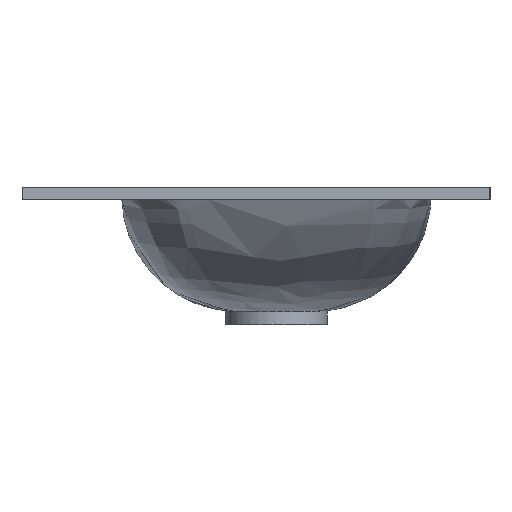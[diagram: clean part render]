
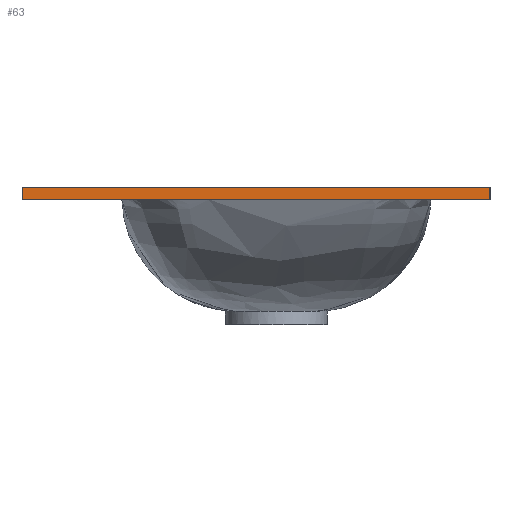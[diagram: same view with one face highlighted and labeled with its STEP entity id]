
A CAD part, left-side view. The second image highlights one B-rep face of the part: STEP entity #63.
In plain terms, the highlighted planar face has unit normal (-1, 0, 0).
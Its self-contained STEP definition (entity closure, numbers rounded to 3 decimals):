
#63=ADVANCED_FACE('',(#82),#75,.T.);
#75=PLANE('',#216);
#82=FACE_OUTER_BOUND('',#86,.T.);
#86=EDGE_LOOP('',(#109,#110,#111,#112));
#109=ORIENTED_EDGE('',*,*,#162,.F.);
#110=ORIENTED_EDGE('',*,*,#161,.F.);
#111=ORIENTED_EDGE('',*,*,#163,.T.);
#112=ORIENTED_EDGE('',*,*,#164,.T.);
#144=VERTEX_POINT('',#273);
#146=VERTEX_POINT('',#277);
#147=VERTEX_POINT('',#281);
#148=VERTEX_POINT('',#283);
#161=EDGE_CURVE('',#146,#144,#180,.T.);
#162=EDGE_CURVE('',#144,#147,#181,.T.);
#163=EDGE_CURVE('',#146,#148,#182,.T.);
#164=EDGE_CURVE('',#148,#147,#183,.T.);
#180=LINE('',#278,#192);
#181=LINE('',#280,#193);
#182=LINE('',#282,#194);
#183=LINE('',#284,#195);
#192=VECTOR('',#233,1.);
#193=VECTOR('',#236,1.);
#194=VECTOR('',#237,1.);
#195=VECTOR('',#238,1.);
#216=AXIS2_PLACEMENT_3D('',#285,#239,#240);
#233=DIRECTION('',(0.,0.,1.));
#236=DIRECTION('',(0.,-1.,0.));
#237=DIRECTION('',(0.,-1.,0.));
#238=DIRECTION('',(0.,0.,1.));
#239=DIRECTION('',(-1.,0.,0.));
#240=DIRECTION('',(0.,0.,1.));
#273=CARTESIAN_POINT('',(-501.,250.,0.));
#277=CARTESIAN_POINT('',(-501.,250.,-12.));
#278=CARTESIAN_POINT('',(-501.,250.,-150.));
#280=CARTESIAN_POINT('',(-501.,250.,0.));
#281=CARTESIAN_POINT('',(-501.,-210.,0.));
#282=CARTESIAN_POINT('',(-501.,0.,-12.));
#283=CARTESIAN_POINT('',(-501.,-210.,-12.));
#284=CARTESIAN_POINT('',(-501.,-210.,-150.));
#285=CARTESIAN_POINT('',(-501.,250.,-150.));
